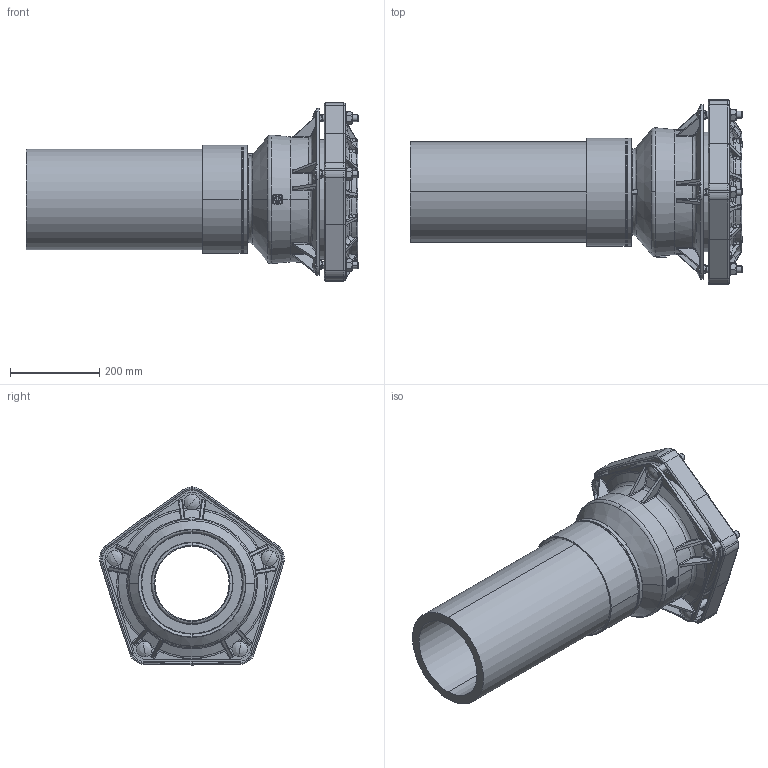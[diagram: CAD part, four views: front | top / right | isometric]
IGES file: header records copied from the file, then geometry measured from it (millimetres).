
Global section: file name: No Iges File Name specified; native system: AutoDesk Inventor R12.0; preprocessor: AutoDesk Inventor Iges Exporter R12.0; date: 20120627.153016; units: millimetre
Bounding box: 743.5 x 414.55 x 398.7 mm (x, y, z)
Volume: 10342822.8 mm3; surface area: 1666916.9 mm2
Topology: 1 solids, 2 shells, 1353 faces, 3436 edges, 2118 vertices
Faces by surface type: bspline 417, plane 359, revolution 199, cylinder 164, cone 136, torus 78
